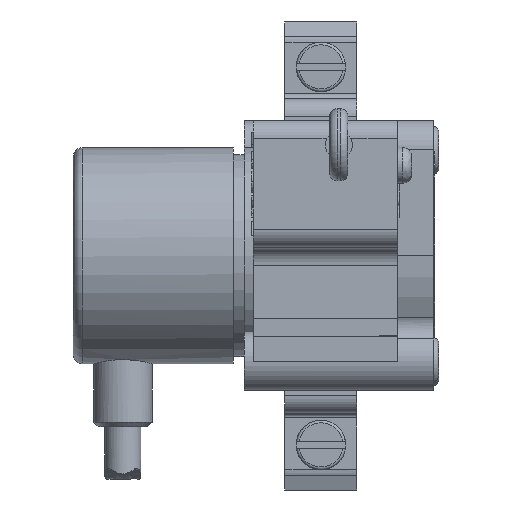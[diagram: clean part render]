
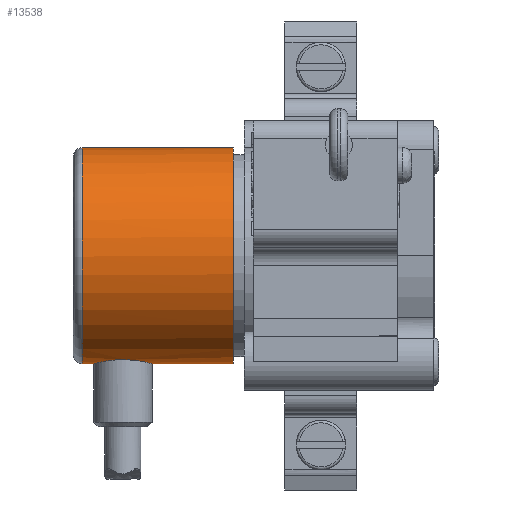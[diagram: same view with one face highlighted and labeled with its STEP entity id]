
A CAD part, top view. The second image highlights one B-rep face of the part: STEP entity #13538.
In plain terms, the highlighted cylindrical face has radius 12 mm (diameter 24 mm), a partial arc.
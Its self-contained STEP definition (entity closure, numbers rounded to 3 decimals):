
#4343=CARTESIAN_POINT('',(-22.2,0.,0.));
#4344=DIRECTION('',(-1.,0.,0.));
#4345=DIRECTION('',(0.,-1.,0.));
#4346=AXIS2_PLACEMENT_3D('',#4343,#4344,#4345);
#4363=DIRECTION('',(1.,0.,0.));
#4364=VECTOR('',#4363,16.8);
#4365=CARTESIAN_POINT('',(-39.,12.,0.));
#4366=LINE('',#4365,#4364);
#4372=CARTESIAN_POINT('',(-37.75,-12.,0.));
#4373=CARTESIAN_POINT('',(-37.75,-12.,0.213));
#4374=CARTESIAN_POINT('',(-37.708,-11.989,
0.64));
#4375=CARTESIAN_POINT('',(-37.516,-11.938,
1.267));
#4376=CARTESIAN_POINT('',(-37.206,-11.862,
1.839));
#4377=CARTESIAN_POINT('',(-36.778,-11.771,
2.352));
#4378=CARTESIAN_POINT('',(-36.233,-11.676,
2.777));
#4379=CARTESIAN_POINT('',(-35.667,-11.606,
3.052));
#4380=CARTESIAN_POINT('',(-35.098,-11.561,
3.217));
#4381=CARTESIAN_POINT('',(-34.423,-11.546,
3.268));
#4382=CARTESIAN_POINT('',(-33.909,-11.563,
3.211));
#4383=CARTESIAN_POINT('',(-33.311,-11.607,
3.049));
#4384=CARTESIAN_POINT('',(-32.726,-11.683,
2.747));
#4385=CARTESIAN_POINT('',(-32.247,-11.766,
2.37));
#4386=CARTESIAN_POINT('',(-31.811,-11.858,
1.868));
#4387=CARTESIAN_POINT('',(-31.481,-11.938,
1.265));
#4388=CARTESIAN_POINT('',(-31.291,-11.989,
0.635));
#4389=CARTESIAN_POINT('',(-31.25,-12.,0.209));
#4390=CARTESIAN_POINT('',(-31.25,-12.,0.));
#4453=DIRECTION('',(1.,0.,0.));
#4454=VECTOR('',#4453,9.05);
#4455=CARTESIAN_POINT('',(-31.25,-12.,0.));
#4456=LINE('',#4455,#4454);
#4457=DIRECTION('',(1.,0.,0.));
#4458=VECTOR('',#4457,1.25);
#4459=CARTESIAN_POINT('',(-39.,-12.,0.));
#4460=LINE('',#4459,#4458);
#4496=CARTESIAN_POINT('',(-39.,0.,0.));
#4497=DIRECTION('',(1.,0.,0.));
#4498=DIRECTION('',(0.,1.,0.));
#4499=AXIS2_PLACEMENT_3D('',#4496,#4497,#4498);
#4501=CARTESIAN_POINT('',(-39.,0.,0.));
#4502=DIRECTION('',(1.,0.,0.));
#4503=DIRECTION('',(0.,1.,0.018));
#4504=AXIS2_PLACEMENT_3D('',#4501,#4502,#4503);
#7835=CARTESIAN_POINT('',(-22.2,-12.,0.));
#7836=CARTESIAN_POINT('',(-22.2,12.,0.));
#7837=VERTEX_POINT('',#7835);
#7838=VERTEX_POINT('',#7836);
#7839=VERTEX_POINT('',#4372);
#7840=VERTEX_POINT('',#4390);
#7841=CARTESIAN_POINT('',(-39.,-12.,0.));
#7842=VERTEX_POINT('',#7841);
#7843=CARTESIAN_POINT('',(-39.,11.998,0.218));
#7844=VERTEX_POINT('',#7843);
#7845=CARTESIAN_POINT('',(-39.,12.,0.));
#7846=VERTEX_POINT('',#7845);
#13518=CARTESIAN_POINT('',(-40.,0.,0.));
#13519=DIRECTION('',(1.,0.,0.));
#13520=DIRECTION('',(0.,-1.,0.));
#13521=AXIS2_PLACEMENT_3D('',#13518,#13519,#13520);
#13522=CYLINDRICAL_SURFACE('',#13521,12.);
#13524=ORIENTED_EDGE('',*,*,#13523,.F.);
#13526=ORIENTED_EDGE('',*,*,#13525,.F.);
#13528=ORIENTED_EDGE('',*,*,#13527,.F.);
#13530=ORIENTED_EDGE('',*,*,#13529,.F.);
#13532=ORIENTED_EDGE('',*,*,#13531,.T.);
#13533=ORIENTED_EDGE('',*,*,#13507,.F.);
#13535=ORIENTED_EDGE('',*,*,#13534,.F.);
#13536=EDGE_LOOP('',(#13524,#13526,#13528,#13530,#13532,#13533,#13535));
#13537=FACE_OUTER_BOUND('',#13536,.F.);
#13538=ADVANCED_FACE('',(#13537),#13522,.T.);
#4347=CIRCLE('',#4346,12.);
#4391=B_SPLINE_CURVE_WITH_KNOTS('',3,(#4372,#4373,#4374,#4375,#4376,#4377,#4378,
#4379,#4380,#4381,#4382,#4383,#4384,#4385,#4386,#4387,#4388,#4389,#4390),
.UNSPECIFIED.,.F.,.F.,(4,1,1,1,1,1,1,1,1,1,1,1,1,1,1,1,4),(0.,0.063,0.125,
0.188,0.25,0.313,0.375,0.438,0.5,0.563,0.625,0.688,
0.75,0.813,0.875,0.938,1.),.UNSPECIFIED.);
#4500=CIRCLE('',#4499,12.);
#4505=CIRCLE('',#4504,12.);
#13507=EDGE_CURVE('',#7837,#7838,#4347,.T.);
#13523=EDGE_CURVE('',#7839,#7840,#4391,.T.);
#13525=EDGE_CURVE('',#7842,#7839,#4460,.T.);
#13527=EDGE_CURVE('',#7844,#7842,#4505,.T.);
#13529=EDGE_CURVE('',#7846,#7844,#4500,.T.);
#13531=EDGE_CURVE('',#7846,#7838,#4366,.T.);
#13534=EDGE_CURVE('',#7840,#7837,#4456,.T.);
